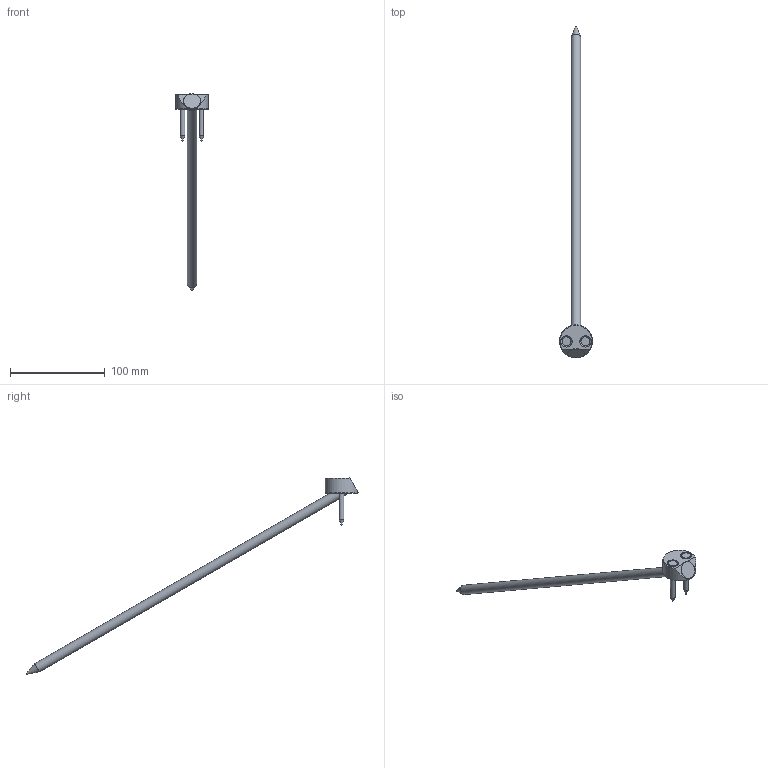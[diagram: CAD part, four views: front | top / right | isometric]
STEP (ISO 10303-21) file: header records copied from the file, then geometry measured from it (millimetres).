
FILE_DESCRIPTION(/* description */ ('Unknown'),/* implementation_level */ '2;1');
FILE_NAME(/* name */ 'T-Joint_D35_W30_2xSK5x50_1xSK10x400',/* time_stamp */ '2020-07-13T10:07:14+02:00',/* author */ ('Unknown'),/* organization */ ('Unknown'),/* preprocessor_version */ 'ST-DEVELOPER v16.7',/* originating_system */ 'DEX',/* authorisation */ $);
FILE_SCHEMA (('AUTOMOTIVE_DESIGN {1 0 10303 214 3 1 1}'));
Length unit declared in the file: millimetre
Products named in the file (4): T-Joint_D35_W30_2xSK5x50_1xSK10x400; T-Joint_D35_W30; SK Schraube 5x50_ohne_Gewinde; SK Schraube 10x400_ohne_Gewinde_22042020
Assembly tree (4 placements, depth 2):
  T-Joint_D35_W30_2xSK5x50_1xSK10x400
    T-Joint_D35_W30
    SK Schraube 5x50_ohne_Gewinde  x2
    SK Schraube 10x400_ohne_Gewinde_22042020
Bounding box: 34.79 x 351.18 x 208.23 mm (x, y, z)
Volume: 43650.7 mm3; surface area: 18735.1 mm2
Topology: 4 solids, 4 shells, 35 faces, 67 edges, 41 vertices
Faces by surface type: cylinder 12, plane 11, cone 9, torus 3
Full cylindrical faces by diameter (mm): 5 x2, 6.2 x2, 6.3 x1, 9.5 x2, 10 x2, 12.5 x1, 18 x1, 34.8 x1
Entity records: 738 total; most frequent: DIRECTION 128, CARTESIAN_POINT 111, ORIENTED_EDGE 68, AXIS2_PLACEMENT_3D 63, EDGE_LOOP 55, FACE_BOUND 55, EDGE_CURVE 34, VERTEX_POINT 31
